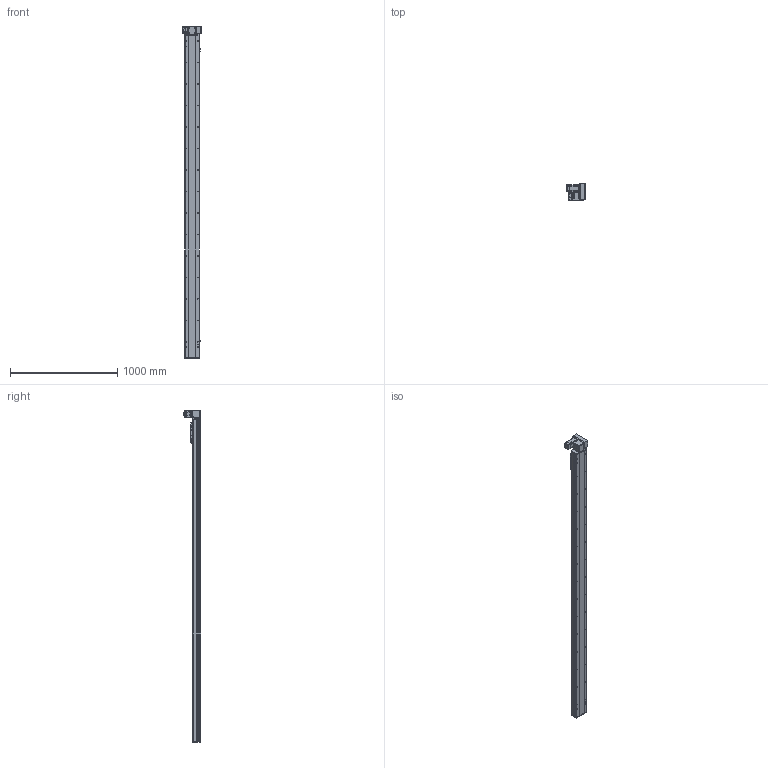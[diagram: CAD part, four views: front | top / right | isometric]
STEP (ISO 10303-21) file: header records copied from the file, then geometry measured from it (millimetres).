
FILE_DESCRIPTION (( 'STEP AP214' ), '1' );
FILE_NAME ('TPE14-L40-2700-RU-T40-C4.STEP', '2023-04-13T08:05:57', ( '' ), ( '' ), 'SwSTEP 2.0', 'SolidWorks 2020', '' );
FILE_SCHEMA (( 'AUTOMOTIVE_DESIGN' ));
Length unit declared in the file: millimetre
Products named in the file (10): hexagon head bolts-full thread gb_GB_FASTENER_BOLT_STBAB A M5X16-N; 葩璃 侂狟400W^TPE14-L40-RU-T40-C4; 葩璃 TPE14-L-001 菁釱MZ-135-01^TPE14-L40-RU-T40-C4; 葩璃 TPT14-L-009 萇儂啣^TPE14-L40-RU-T40-C4_400W; 葩璃 TPE14-L-002 耜裔ZTMZ-135-04^TPE14-L40-RU-T40-C4; 葩璃 pm-t65-672^TPE14-L40-RU-T40-C4; TPE14-L40-2700-RU-T40-C4; 葩璃 TPE14 賑雄殤^TPE14-L40-RU-T40-C4; 葩璃 TPE14-L-007 々湍釱MZ-169x88^TPE14-L40-RU-T40-C4_YCB14; 葩璃 詩湍75^TPE14-L40-RU-T40-C4
Assembly tree (12 placements, depth 2):
  TPE14-L40-2700-RU-T40-C4
    葩璃 TPE14-L-001 菁釱MZ-135-01^TPE14-L40-RU-T40-C4
    葩璃 TPE14-L-002 耜裔ZTMZ-135-04^TPE14-L40-RU-T40-C4  x2
    葩璃 詩湍75^TPE14-L40-RU-T40-C4
    葩璃 TPE14-L-007 々湍釱MZ-169x88^TPE14-L40-RU-T40-C4_YCB14
    葩璃 TPT14-L-009 萇儂啣^TPE14-L40-RU-T40-C4_400W
    葩璃 TPE14 賑雄殤^TPE14-L40-RU-T40-C4
    葩璃 pm-t65-672^TPE14-L40-RU-T40-C4  x3
    葩璃 侂狟400W^TPE14-L40-RU-T40-C4
    hexagon head bolts-full thread gb_GB_FASTENER_BOLT_STBAB A M5X16-N
Bounding box: 172.5 x 160.85 x 3090.5 mm (x, y, z)
Volume: 15236379.2 mm3; surface area: 2846616.8 mm2
Topology: 23 solids, 23 shells, 1484 faces, 3847 edges, 2420 vertices
Faces by surface type: plane 823, cylinder 457, cone 170, bspline 34
Entity records: 39863 total; most frequent: CARTESIAN_POINT 7660, DIRECTION 6368, ORIENTED_EDGE 6114, EDGE_CURVE 3057, AXIS2_PLACEMENT_3D 2182, VECTOR 2004, LINE 2004, VERTEX_POINT 1968
